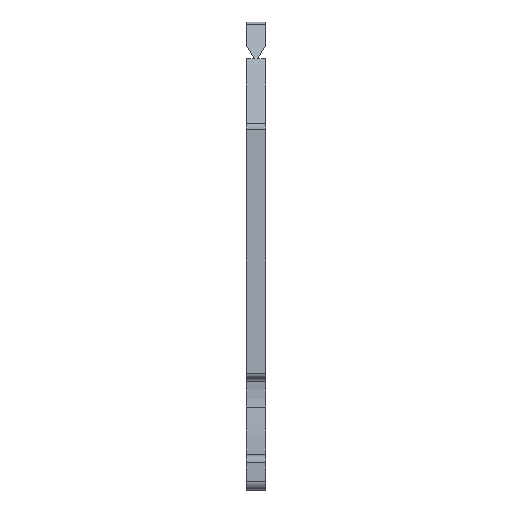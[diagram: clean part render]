
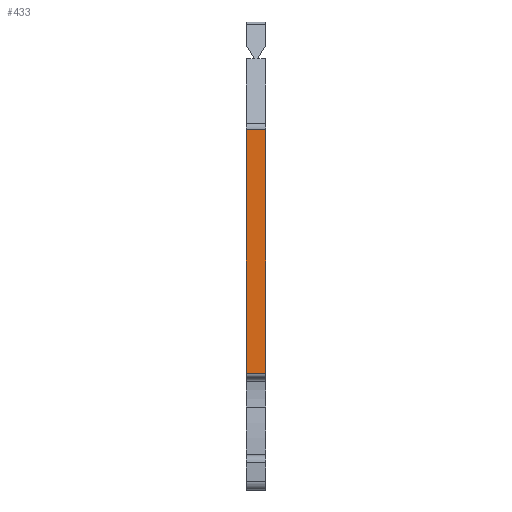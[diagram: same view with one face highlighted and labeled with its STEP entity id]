
A CAD part, front view. The second image highlights one B-rep face of the part: STEP entity #433.
In plain terms, the highlighted planar face has unit normal (0, -1, 0).
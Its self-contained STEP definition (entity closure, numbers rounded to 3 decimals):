
#375=CARTESIAN_POINT('',(2.2,3.35,41.236));
#376=VERTEX_POINT('',#375);
#377=CARTESIAN_POINT('',(0.,3.35,41.236));
#378=VERTEX_POINT('',#377);
#379=CARTESIAN_POINT('',(2.2,3.35,41.236));
#380=DIRECTION('',(-1.,0.,0.));
#381=VECTOR('',#380,2.2);
#382=LINE('',#379,#381);
#383=EDGE_CURVE('',#376,#378,#382,.T.);
#403=CARTESIAN_POINT('',(1.1,3.35,27.18));
#404=DIRECTION('',(0.,0.,-1.));
#405=DIRECTION('',(0.,-1.,0.));
#406=AXIS2_PLACEMENT_3D('',#403,#405,#404);
#407=PLANE('',#406);
#408=CARTESIAN_POINT('',(0.,3.35,13.35));
#409=VERTEX_POINT('',#408);
#410=CARTESIAN_POINT('',(2.2,3.35,13.35));
#411=VERTEX_POINT('',#410);
#412=CARTESIAN_POINT('',(0.,3.35,13.35));
#413=DIRECTION('',(1.,0.,0.));
#414=VECTOR('',#413,2.2);
#415=LINE('',#412,#414);
#416=EDGE_CURVE('',#409,#411,#415,.T.);
#417=ORIENTED_EDGE('E1964',*,*,#416,.T.);
#418=CARTESIAN_POINT('',(2.2,3.35,41.236));
#419=DIRECTION('',(0.,0.,-1.));
#420=VECTOR('',#419,27.886);
#421=LINE('',#418,#420);
#422=EDGE_CURVE('',#376,#411,#421,.T.);
#423=ORIENTED_EDGE('E47',*,*,#422,.F.);
#424=ORIENTED_EDGE('E47',*,*,#383,.T.);
#425=CARTESIAN_POINT('',(0.,3.35,41.236));
#426=DIRECTION('',(0.,0.,-1.));
#427=VECTOR('',#426,27.886);
#428=LINE('',#425,#427);
#429=EDGE_CURVE('',#378,#409,#428,.T.);
#430=ORIENTED_EDGE('E892',*,*,#429,.T.);
#431=EDGE_LOOP('',(#417,#423,#424,#430));
#432=FACE_OUTER_BOUND('',#431,.T.);
#433=ADVANCED_FACE('F141',(#432),#407,.T.);
